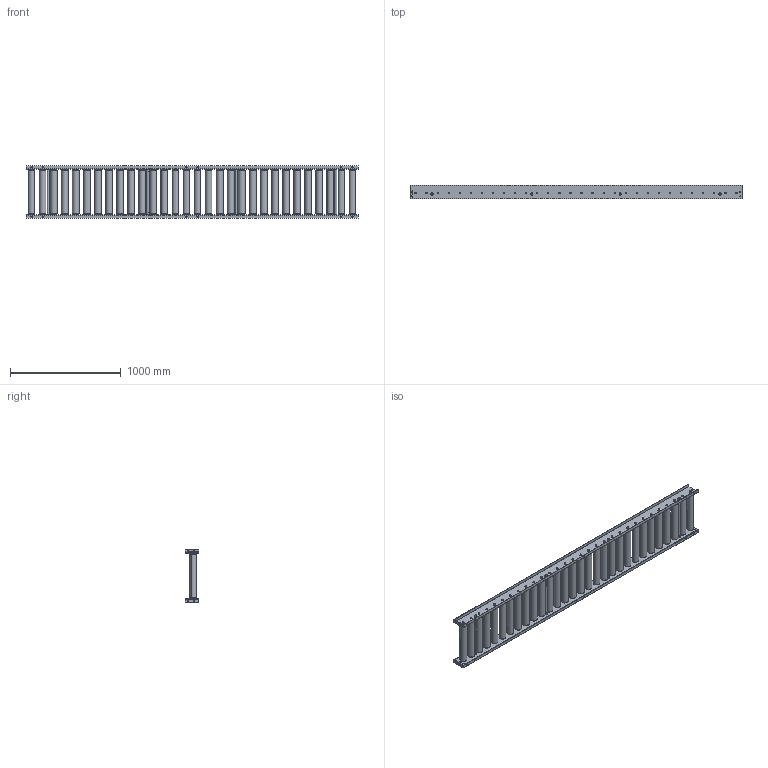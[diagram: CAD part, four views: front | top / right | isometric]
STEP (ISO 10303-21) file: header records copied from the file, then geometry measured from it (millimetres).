
FILE_DESCRIPTION (( 'STEP AP203' ), '1' );
FILE_NAME ('R-6023PG.step', '2024-02-26T07:31:04', ( '' ), ( '' ), 'SwSTEP 2.0', 'SolidWorks 2023', '' );
FILE_SCHEMA (( 'CONFIG_CONTROL_DESIGN' ));
Length unit declared in the file: millimetre
Products named in the file (1): R-6023PG
Bounding box: 3000 x 120 x 475.4 mm (x, y, z)
Volume: 37172611.6 mm3; surface area: 6093332 mm2
Topology: 84 solids, 84 shells, 1339 faces, 3093 edges, 1990 vertices
Faces by surface type: cylinder 653, plane 518, torus 120, cone 48
Entity records: 39468 total; most frequent: DIRECTION 7359, CARTESIAN_POINT 7095, ORIENTED_EDGE 6186, EDGE_CURVE 3093, AXIS2_PLACEMENT_3D 3054, VERTEX_POINT 1990, EDGE_LOOP 1727, CIRCLE 1714
